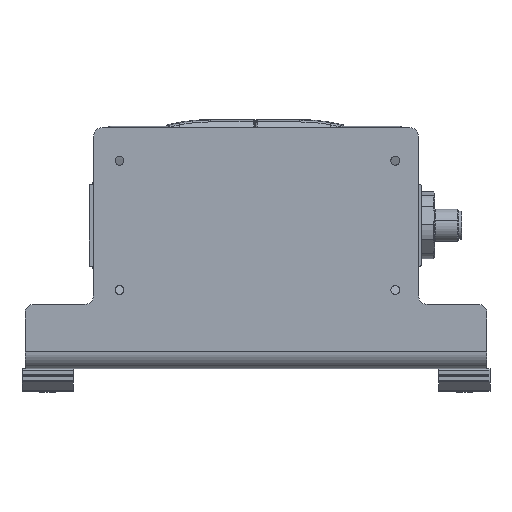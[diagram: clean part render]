
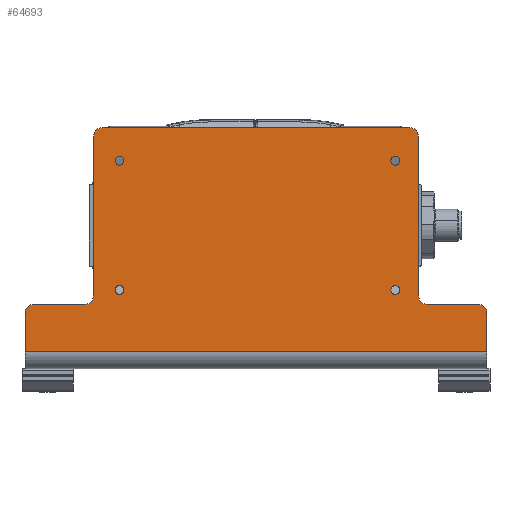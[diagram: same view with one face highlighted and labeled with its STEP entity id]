
A CAD part, front view. The second image highlights one B-rep face of the part: STEP entity #64693.
In plain terms, the highlighted planar face has unit normal (0, -1, 0) as drawn and (0, 1, 0) by its records, which use the part's own axes.
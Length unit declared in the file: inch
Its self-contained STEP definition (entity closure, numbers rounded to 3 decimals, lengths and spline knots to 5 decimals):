
#64072=DIRECTION('',(0.,0.,1.));
#64073=VECTOR('',#64072,0.565);
#64074=CARTESIAN_POINT('',(3.375,0.,-1.51));
#64075=LINE('',#64074,#64073);
#64076=DIRECTION('',(1.,0.,0.));
#64077=VECTOR('',#64076,0.75);
#64078=CARTESIAN_POINT('',(2.5,0.,-0.82));
#64079=LINE('',#64078,#64077);
#64080=CARTESIAN_POINT('',(2.5,0.,-0.695));
#64081=DIRECTION('',(0.,-1.,0.));
#64082=DIRECTION('',(-1.,0.,0.));
#64083=AXIS2_PLACEMENT_3D('',#64080,#64081,#64082);
#64085=DIRECTION('',(0.,0.,-1.));
#64086=VECTOR('',#64085,2.33);
#64087=CARTESIAN_POINT('',(2.375,0.,1.635));
#64088=LINE('',#64087,#64086);
#64089=CARTESIAN_POINT('',(2.25,0.,1.635));
#64090=DIRECTION('',(0.,1.,0.));
#64091=DIRECTION('',(0.,0.,1.));
#64092=AXIS2_PLACEMENT_3D('',#64089,#64090,#64091);
#64094=CARTESIAN_POINT('',(-2.25,0.,1.635));
#64095=DIRECTION('',(0.,1.,0.));
#64096=DIRECTION('',(-1.,0.,0.));
#64097=AXIS2_PLACEMENT_3D('',#64094,#64095,#64096);
#64099=DIRECTION('',(0.,0.,1.));
#64100=VECTOR('',#64099,2.33);
#64101=CARTESIAN_POINT('',(-2.375,0.,-0.695));
#64102=LINE('',#64101,#64100);
#64103=CARTESIAN_POINT('',(-2.5,0.,-0.695));
#64104=DIRECTION('',(0.,-1.,0.));
#64105=DIRECTION('',(0.,0.,-1.));
#64106=AXIS2_PLACEMENT_3D('',#64103,#64104,#64105);
#64108=DIRECTION('',(1.,0.,0.));
#64109=VECTOR('',#64108,0.75);
#64110=CARTESIAN_POINT('',(-3.25,0.,-0.82));
#64111=LINE('',#64110,#64109);
#64112=CARTESIAN_POINT('',(-3.25,0.,-0.945));
#64113=DIRECTION('',(0.,1.,0.));
#64114=DIRECTION('',(-1.,0.,0.));
#64115=AXIS2_PLACEMENT_3D('',#64112,#64113,#64114);
#64117=CARTESIAN_POINT('',(3.25,0.,-0.945));
#64118=DIRECTION('',(0.,1.,0.));
#64119=DIRECTION('',(0.,0.,1.));
#64120=AXIS2_PLACEMENT_3D('',#64117,#64118,#64119);
#64122=CARTESIAN_POINT('',(1.995,0.,1.28));
#64123=DIRECTION('',(0.,-1.,0.));
#64124=DIRECTION('',(0.,0.,-1.));
#64125=AXIS2_PLACEMENT_3D('',#64122,#64123,#64124);
#64127=CARTESIAN_POINT('',(1.995,0.,1.28));
#64128=DIRECTION('',(0.,-1.,0.));
#64129=DIRECTION('',(0.,0.,1.));
#64130=AXIS2_PLACEMENT_3D('',#64127,#64128,#64129);
#64132=CARTESIAN_POINT('',(-2.035,0.,1.28));
#64133=DIRECTION('',(0.,-1.,0.));
#64134=DIRECTION('',(0.,0.,-1.));
#64135=AXIS2_PLACEMENT_3D('',#64132,#64133,#64134);
#64137=CARTESIAN_POINT('',(-2.035,0.,1.28));
#64138=DIRECTION('',(0.,-1.,0.));
#64139=DIRECTION('',(0.,0.,1.));
#64140=AXIS2_PLACEMENT_3D('',#64137,#64138,#64139);
#64142=CARTESIAN_POINT('',(-2.035,0.,-0.61));
#64143=DIRECTION('',(0.,-1.,0.));
#64144=DIRECTION('',(0.,0.,-1.));
#64145=AXIS2_PLACEMENT_3D('',#64142,#64143,#64144);
#64147=CARTESIAN_POINT('',(-2.035,0.,-0.61));
#64148=DIRECTION('',(0.,-1.,0.));
#64149=DIRECTION('',(0.,0.,1.));
#64150=AXIS2_PLACEMENT_3D('',#64147,#64148,#64149);
#64152=CARTESIAN_POINT('',(1.995,0.,-0.61));
#64153=DIRECTION('',(0.,-1.,0.));
#64154=DIRECTION('',(0.,0.,-1.));
#64155=AXIS2_PLACEMENT_3D('',#64152,#64153,#64154);
#64157=CARTESIAN_POINT('',(1.995,0.,-0.61));
#64158=DIRECTION('',(0.,-1.,0.));
#64159=DIRECTION('',(0.,0.,1.));
#64160=AXIS2_PLACEMENT_3D('',#64157,#64158,#64159);
#64178=DIRECTION('',(-1.,0.,0.));
#64179=VECTOR('',#64178,4.5);
#64180=CARTESIAN_POINT('',(2.25,0.,1.76));
#64181=LINE('',#64180,#64179);
#64218=DIRECTION('',(0.,0.,-1.));
#64219=VECTOR('',#64218,0.565);
#64220=CARTESIAN_POINT('',(-3.375,0.,-0.945));
#64221=LINE('',#64220,#64219);
#64362=DIRECTION('',(1.,0.,0.));
#64363=VECTOR('',#64362,6.75);
#64364=CARTESIAN_POINT('',(-3.375,0.,-1.51));
#64365=LINE('',#64364,#64363);
#64418=CARTESIAN_POINT('',(-3.375,0.,-0.945));
#64420=VERTEX_POINT('',#64418);
#64434=CARTESIAN_POINT('',(-2.375,0.,1.635));
#64435=CARTESIAN_POINT('',(-2.25,0.,1.76));
#64436=VERTEX_POINT('',#64434);
#64437=VERTEX_POINT('',#64435);
#64438=CARTESIAN_POINT('',(-3.375,0.,-1.51));
#64439=VERTEX_POINT('',#64438);
#64441=CARTESIAN_POINT('',(2.375,0.,1.635));
#64443=VERTEX_POINT('',#64441);
#64452=CARTESIAN_POINT('',(2.375,0.,-0.695));
#64454=VERTEX_POINT('',#64452);
#64457=CARTESIAN_POINT('',(-2.035,0.,1.21504));
#64459=VERTEX_POINT('',#64457);
#64472=CARTESIAN_POINT('',(1.995,0.,-0.67496));
#64473=CARTESIAN_POINT('',(1.995,0.,-0.54504));
#64474=VERTEX_POINT('',#64472);
#64475=VERTEX_POINT('',#64473);
#64476=CARTESIAN_POINT('',(3.25,0.,-0.82));
#64477=VERTEX_POINT('',#64476);
#64478=CARTESIAN_POINT('',(2.5,0.,-0.82));
#64479=VERTEX_POINT('',#64478);
#64481=CARTESIAN_POINT('',(-3.25,0.,-0.82));
#64483=VERTEX_POINT('',#64481);
#64491=CARTESIAN_POINT('',(-2.035,0.,-0.54504));
#64493=VERTEX_POINT('',#64491);
#64495=CARTESIAN_POINT('',(1.995,0.,1.34496));
#64497=VERTEX_POINT('',#64495);
#64498=CARTESIAN_POINT('',(-2.035,0.,-0.67496));
#64499=VERTEX_POINT('',#64498);
#64504=CARTESIAN_POINT('',(-2.035,0.,1.34496));
#64505=VERTEX_POINT('',#64504);
#64512=CARTESIAN_POINT('',(3.375,0.,-0.945));
#64513=VERTEX_POINT('',#64512);
#64520=CARTESIAN_POINT('',(3.375,0.,-1.51));
#64521=VERTEX_POINT('',#64520);
#64522=CARTESIAN_POINT('',(-2.5,0.,-0.82));
#64523=CARTESIAN_POINT('',(-2.375,0.,-0.695));
#64524=VERTEX_POINT('',#64522);
#64525=VERTEX_POINT('',#64523);
#64526=CARTESIAN_POINT('',(2.25,0.,1.76));
#64527=VERTEX_POINT('',#64526);
#64530=CARTESIAN_POINT('',(1.995,0.,1.21504));
#64531=VERTEX_POINT('',#64530);
#64636=CARTESIAN_POINT('',(0.,0.,0.));
#64637=DIRECTION('',(0.,-1.,0.));
#64638=DIRECTION('',(0.,0.,-1.));
#64639=AXIS2_PLACEMENT_3D('',#64636,#64637,#64638);
#64640=PLANE('',#64639);
#64642=ORIENTED_EDGE('',*,*,#64641,.F.);
#64644=ORIENTED_EDGE('',*,*,#64643,.F.);
#64646=ORIENTED_EDGE('',*,*,#64645,.F.);
#64648=ORIENTED_EDGE('',*,*,#64647,.F.);
#64650=ORIENTED_EDGE('',*,*,#64649,.T.);
#64652=ORIENTED_EDGE('',*,*,#64651,.F.);
#64654=ORIENTED_EDGE('',*,*,#64653,.F.);
#64656=ORIENTED_EDGE('',*,*,#64655,.F.);
#64657=ORIENTED_EDGE('',*,*,#64555,.F.);
#64659=ORIENTED_EDGE('',*,*,#64658,.F.);
#64661=ORIENTED_EDGE('',*,*,#64660,.T.);
#64663=ORIENTED_EDGE('',*,*,#64662,.T.);
#64664=ORIENTED_EDGE('',*,*,#64626,.T.);
#64666=ORIENTED_EDGE('',*,*,#64665,.F.);
#64667=EDGE_LOOP('',(#64642,#64644,#64646,#64648,#64650,#64652,#64654,#64656,
#64657,#64659,#64661,#64663,#64664,#64666));
#64668=FACE_OUTER_BOUND('',#64667,.F.);
#64670=ORIENTED_EDGE('',*,*,#64669,.F.);
#64672=ORIENTED_EDGE('',*,*,#64671,.F.);
#64673=EDGE_LOOP('',(#64670,#64672));
#64674=FACE_BOUND('',#64673,.F.);
#64676=ORIENTED_EDGE('',*,*,#64675,.F.);
#64678=ORIENTED_EDGE('',*,*,#64677,.F.);
#64679=EDGE_LOOP('',(#64676,#64678));
#64680=FACE_BOUND('',#64679,.F.);
#64682=ORIENTED_EDGE('',*,*,#64681,.F.);
#64684=ORIENTED_EDGE('',*,*,#64683,.F.);
#64685=EDGE_LOOP('',(#64682,#64684));
#64686=FACE_BOUND('',#64685,.F.);
#64688=ORIENTED_EDGE('',*,*,#64687,.F.);
#64690=ORIENTED_EDGE('',*,*,#64689,.F.);
#64691=EDGE_LOOP('',(#64688,#64690));
#64692=FACE_BOUND('',#64691,.F.);
#64084=CIRCLE('',#64083,0.125);
#64093=CIRCLE('',#64092,0.125);
#64098=CIRCLE('',#64097,0.125);
#64107=CIRCLE('',#64106,0.125);
#64116=CIRCLE('',#64115,0.125);
#64121=CIRCLE('',#64120,0.125);
#64126=CIRCLE('',#64125,0.06496);
#64131=CIRCLE('',#64130,0.06496);
#64136=CIRCLE('',#64135,0.06496);
#64141=CIRCLE('',#64140,0.06496);
#64146=CIRCLE('',#64145,0.06496);
#64151=CIRCLE('',#64150,0.06496);
#64156=CIRCLE('',#64155,0.06496);
#64161=CIRCLE('',#64160,0.06496);
#64555=EDGE_CURVE('',#64483,#64524,#64111,.T.);
#64626=EDGE_CURVE('',#64521,#64513,#64075,.T.);
#64641=EDGE_CURVE('',#64479,#64477,#64079,.T.);
#64643=EDGE_CURVE('',#64454,#64479,#64084,.T.);
#64645=EDGE_CURVE('',#64443,#64454,#64088,.T.);
#64647=EDGE_CURVE('',#64527,#64443,#64093,.T.);
#64649=EDGE_CURVE('',#64527,#64437,#64181,.T.);
#64651=EDGE_CURVE('',#64436,#64437,#64098,.T.);
#64653=EDGE_CURVE('',#64525,#64436,#64102,.T.);
#64655=EDGE_CURVE('',#64524,#64525,#64107,.T.);
#64658=EDGE_CURVE('',#64420,#64483,#64116,.T.);
#64660=EDGE_CURVE('',#64420,#64439,#64221,.T.);
#64662=EDGE_CURVE('',#64439,#64521,#64365,.T.);
#64665=EDGE_CURVE('',#64477,#64513,#64121,.T.);
#64669=EDGE_CURVE('',#64531,#64497,#64126,.T.);
#64671=EDGE_CURVE('',#64497,#64531,#64131,.T.);
#64675=EDGE_CURVE('',#64459,#64505,#64136,.T.);
#64677=EDGE_CURVE('',#64505,#64459,#64141,.T.);
#64681=EDGE_CURVE('',#64499,#64493,#64146,.T.);
#64683=EDGE_CURVE('',#64493,#64499,#64151,.T.);
#64687=EDGE_CURVE('',#64474,#64475,#64156,.T.);
#64689=EDGE_CURVE('',#64475,#64474,#64161,.T.);
#64693=ADVANCED_FACE('',(#64668,#64674,#64680,#64686,#64692),#64640,.F.);
